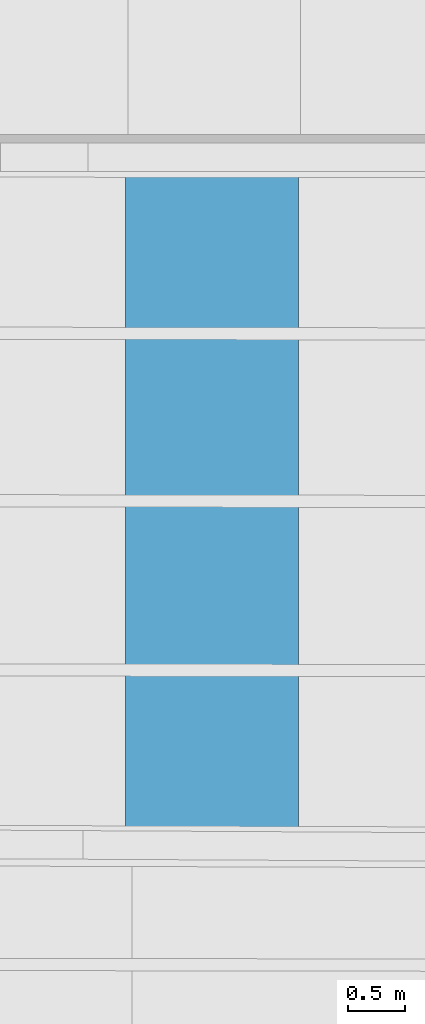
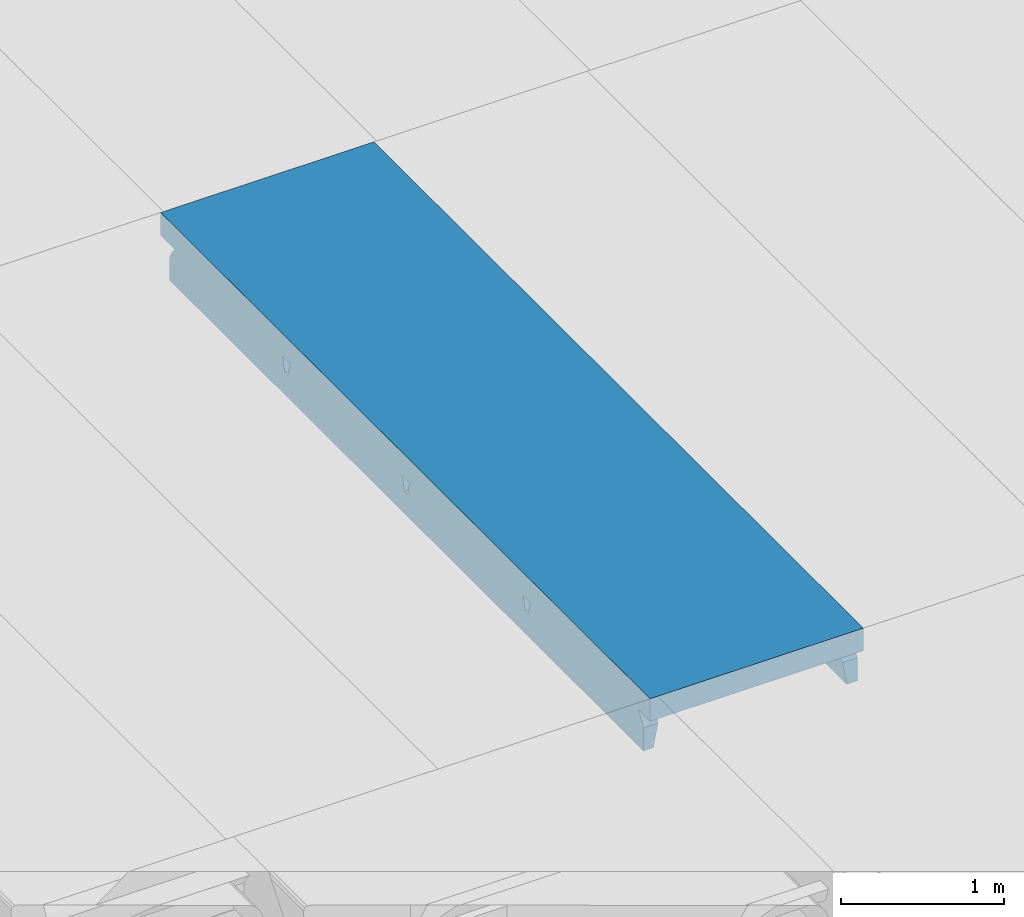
# One storey, part 40 of 301: 1 beam.
"""IFC2X3 building model written with IfcOpenShell, lengths in millimetres."""

import ifcopenshell
import ifcopenshell.guid

model = None  # the IFC model being written
_history = None  # IfcOwnerHistory: only IFC2X3 demands one
_inside = {}  # id of a spatial element -> (the spatial element, [elements in it])
_under = {}  # id of a project, library or spatial element -> (it, [spatial elements below it])
_declared = {}  # id of a project -> (the project, [libraries it declares])
_typed = {}  # id of a type object -> (the type object, [elements of that type])
_made_of = {}  # id of a material, layer set ... -> (it, [elements and type objects made of it])


def new_model(schema):
    """Start an empty IFC model of exactly this schema.

    Asked for "IFC4X3", IfcOpenShell would pick the latest addendum, in which some entities
    have other attributes; the version numbers below select the first issue.
    IFC2X3 requires an IfcOwnerHistory on every rooted entity: one is made here for all.
    """
    global model, _history
    if schema == "IFC4X3":
        model = ifcopenshell.file(schema_version=(4, 3, 0, 0))
    else:
        model = ifcopenshell.file(schema=schema)
    _inside.clear()
    _under.clear()
    _declared.clear()
    _typed.clear()
    _made_of.clear()
    _history = None
    if model.schema == "IFC2X3":
        org = make("IfcOrganization", Name="unknown")
        user = make(
            "IfcPersonAndOrganization",
            ThePerson=make("IfcPerson", FamilyName="unknown"),
            TheOrganization=org,
        )
        app = make(
            "IfcApplication",
            ApplicationDeveloper=org,
            Version="unknown",
            ApplicationFullName="unknown",
            ApplicationIdentifier="unknown",
        )
        _history = make(
            "IfcOwnerHistory",
            OwningUser=user,
            OwningApplication=app,
            ChangeAction="ADDED",
            CreationDate=0,
        )
    return model


def make(cls, **values):
    """One entity of the class cls with the attributes given. An attribute that is None is left unset."""
    return model.create_entity(
        cls, **{name: value for name, value in values.items() if value is not None}
    )


def entity(cls, *values):
    """Any entity or typed value of the class cls, its attributes in the order of the schema. None: left unset."""
    e = model.create_entity(cls)
    for i, value in enumerate(values):
        if value is not None:
            e[i] = value
    return e


def rooted(cls, **values):
    """An entity with a GlobalId (a new one), such as an element, a storey or a relation."""
    return make(cls, GlobalId=ifcopenshell.guid.new(), OwnerHistory=_history, **values)


def si_unit(unit_type, name, prefix=None):
    """IfcSIUnit, for example si_unit("LENGTHUNIT", "METRE", prefix="MILLI")."""
    return make("IfcSIUnit", UnitType=unit_type, Prefix=prefix, Name=name)


def converted_unit(unit_type, name, factor, base, dimensions=None, offset=None):
    """IfcConversionBasedUnit, such as the inch: factor (a typed value) times the base unit."""
    return make(
        "IfcConversionBasedUnit"
        if offset is None
        else "IfcConversionBasedUnitWithOffset",
        ConversionOffset=offset,
        Dimensions=None
        if dimensions is None
        else entity("IfcDimensionalExponents", *dimensions),
        UnitType=unit_type,
        Name=name,
        ConversionFactor=make(
            "IfcMeasureWithUnit", ValueComponent=factor, UnitComponent=base
        ),
    )


def derived_unit(unit_type, elements):
    """IfcDerivedUnit: a product of units, each with its exponent."""
    return make(
        "IfcDerivedUnit",
        Elements=[
            make("IfcDerivedUnitElement", Unit=unit, Exponent=power)
            for unit, power in elements
        ],
        UnitType=unit_type,
    )


def money_unit(currency):
    """IfcMonetaryUnit."""
    return make("IfcMonetaryUnit", Currency=currency)


def assignment(units):
    """IfcUnitAssignment: the units of a project."""
    return None if units is None else make("IfcUnitAssignment", Units=units)


def point(xyz):
    """IfcCartesianPoint."""
    return None if xyz is None else make("IfcCartesianPoint", Coordinates=xyz)


def direction(xyz):
    """IfcDirection."""
    return None if xyz is None else make("IfcDirection", DirectionRatios=xyz)


def frame(location, z_axis=None, x_axis=None):
    """IfcAxis2Placement3D, a coordinate frame: its origin and axes. An axis left out is left unset."""
    return make(
        "IfcAxis2Placement3D",
        Location=point(location),
        Axis=direction(z_axis),
        RefDirection=direction(x_axis),
    )


def origin_with_axes():
    """The frame at (0, 0, 0) with the z axis (0, 0, 1) and the x axis (1, 0, 0) written out."""
    return frame((0.0, 0.0, 0.0), z_axis=(0.0, 0.0, 1.0), x_axis=(1.0, 0.0, 0.0))


def place(relative_to, where):
    """IfcLocalPlacement: puts the frame where relative to a parent placement (None: the world)."""
    return make(
        "IfcLocalPlacement", PlacementRelTo=relative_to, RelativePlacement=where
    )


def context(
    kind, dimensions, precision=None, world=None, true_north=None, identifier=None
):
    """IfcGeometricRepresentationContext, for example the 3D "Model" context."""
    return make(
        "IfcGeometricRepresentationContext",
        ContextIdentifier=identifier,
        ContextType=kind,
        CoordinateSpaceDimension=dimensions,
        Precision=precision,
        WorldCoordinateSystem=world,
        TrueNorth=true_north,
    )


def subcontext(parent, identifier, kind, view, scale=None):
    """IfcGeometricRepresentationSubContext, for example "Body" below "Model"."""
    return make(
        "IfcGeometricRepresentationSubContext",
        ContextIdentifier=identifier,
        ContextType=kind,
        ParentContext=parent,
        TargetScale=scale,
        TargetView=view,
    )


def project(units=None, contexts=None):
    """IfcProject with its units and contexts."""
    return rooted(
        "IfcProject",
        Name="project",
        RepresentationContexts=contexts,
        UnitsInContext=assignment(units),
    )


def spatial(cls, under=None, at=None, **own):
    """A site, building, storey or space (cls), placed at a placement, below another one or the project."""
    s = rooted(cls, ObjectPlacement=at, **own)
    if under is not None:
        _under.setdefault(under.id(), (under, []))[1].append(s)
    return s


def faces_of(points, faces, orient=None, outer=None):
    """IfcFace entities. A face is a list of loops; a loop is a list of indices into points, from 0.

    orient and outer hold one flag for each loop. By default every Orientation is true, the
    first loop of a face is its IfcFaceOuterBound and the others are IfcFaceBound.
    """
    made = []
    for i, loops in enumerate(faces):
        bounds = []
        for j, loop in enumerate(loops):
            is_outer = j == 0 if outer is None else outer[i][j]
            bounds.append(
                make(
                    "IfcFaceOuterBound" if is_outer else "IfcFaceBound",
                    Bound=make("IfcPolyLoop", Polygon=[points[k] for k in loop]),
                    Orientation=True if orient is None else orient[i][j],
                )
            )
        made.append(make("IfcFace", Bounds=bounds))
    return made


def faceted_brep(points, faces, orient=None, outer=None, voids=None):
    """IfcFacetedBrep: a solid bounded by flat faces; with voids (closed shells), ...WithVoids."""
    shared = [point(p) for p in points]
    hull = make("IfcClosedShell", CfsFaces=faces_of(shared, faces, orient, outer))
    if voids is None:
        return make("IfcFacetedBrep", Outer=hull)
    return make(
        "IfcFacetedBrepWithVoids",
        Outer=hull,
        Voids=[
            make(cls, CfsFaces=faces_of(shared, fs, o, b)) for cls, fs, o, b in voids
        ],
    )


def shape(context_of_items, identifier, shape_type, items):
    """IfcShapeRepresentation: the items that make up one representation, for example the "Body"."""
    return make(
        "IfcShapeRepresentation",
        ContextOfItems=context_of_items,
        RepresentationIdentifier=identifier,
        RepresentationType=shape_type,
        Items=items,
    )


def material(Name=None, Category=None):
    """IfcMaterial."""
    return make("IfcMaterial", Name=Name, Category=Category)


def made_of(thing, what):
    """Note that an element or type object is made of a material, layer set ...; save() writes the relation."""
    if what is not None:
        _made_of.setdefault(what.id(), (what, []))[1].append(thing)
    return thing


def type_object(cls, material=None, **own):
    """A type object (cls), such as IfcWallType, which elements share."""
    return made_of(rooted(cls, **own), material)


def element(
    cls,
    number,
    at=None,
    inside=None,
    cuts=None,
    type_object=None,
    material=None,
    context=None,
    identifier="Body",
    shape_type=None,
    held_by="IfcProductDefinitionShape",
    body=None,
    shapes=None,
    **own,
):
    """One element of the class cls, such as IfcWall. Its Tag is "e" and its number.

    at: its placement. inside: the storey or other place that contains it. cuts: it is an
    opening in that element (IfcRelVoidsElement). A single representation is given by context,
    identifier, shape_type and body (its items); several are given by shapes. held_by: the class
    of the entity that holds the representations. save() writes the other relations.
    """
    e = rooted(cls, Tag="e%d" % number, ObjectPlacement=at, **own)
    if body is not None:
        shapes = [shape(context, identifier, shape_type, body)]
    if shapes is not None:
        e.Representation = make(held_by, Representations=shapes)
    if inside is not None:
        _inside.setdefault(inside.id(), (inside, []))[1].append(e)
    if cuts is not None:
        rooted(
            "IfcRelVoidsElement", RelatingBuildingElement=cuts, RelatedOpeningElement=e
        )
    if type_object is not None:
        _typed.setdefault(type_object.id(), (type_object, []))[1].append(e)
    return made_of(e, material)


def aggregate(whole, parts):
    """IfcRelAggregates: a whole, such as a stair, and the parts it consists of."""
    return rooted("IfcRelAggregates", RelatingObject=whole, RelatedObjects=parts)


def save(model, path):
    """Write the relations noted so far, then the file.

    IfcRelAggregates (storeys below a building ...), IfcRelContainedInSpatialStructure (elements
    in a storey), IfcRelDefinesByType, IfcRelAssociatesMaterial and IfcRelDeclares: one each for
    every whole, place, type object, material and project.
    """
    for whole, parts in _under.values():
        aggregate(whole, parts)
    for where, things in _inside.values():
        rooted(
            "IfcRelContainedInSpatialStructure",
            RelatedElements=things,
            RelatingStructure=where,
        )
    for kind, things in _typed.values():
        rooted("IfcRelDefinesByType", RelatedObjects=things, RelatingType=kind)
    for what, things in _made_of.values():
        rooted("IfcRelAssociatesMaterial", RelatedObjects=things, RelatingMaterial=what)
    for by, libraries in _declared.values():
        rooted("IfcRelDeclares", RelatingContext=by, RelatedDefinitions=libraries)
    model.write(path)


model = new_model("IFC2X3")

# Units and contexts
model_context = context("Model", 3, precision=0.01, world=origin_with_axes(), true_north=direction((0.0, 1.0)))
body_context = subcontext(model_context, "Body", "Model", "MODEL_VIEW")
ifc_project = project(units=[si_unit("LENGTHUNIT", "METRE", prefix="MILLI"), si_unit("AREAUNIT", "SQUARE_METRE"), si_unit("VOLUMEUNIT", "CUBIC_METRE"), converted_unit("PLANEANGLEUNIT", "DEGREE", entity("IfcPlaneAngleMeasure", 0.0174532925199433), si_unit("PLANEANGLEUNIT", "RADIAN"), dimensions=[0, 0, 0, 0, 0, 0, 0]), money_unit("EUR"), converted_unit("TIMEUNIT", "Year", entity("IfcTimeMeasure", 31557600.0), si_unit("TIMEUNIT", "SECOND"), dimensions=[0, 0, 1, 0, 0, 0, 0]), si_unit("MASSUNIT", "GRAM", prefix="KILO"), si_unit("THERMODYNAMICTEMPERATUREUNIT", "DEGREE_CELSIUS"), si_unit("LUMINOUSINTENSITYUNIT", "LUMEN"), si_unit("ENERGYUNIT", "JOULE", prefix="MEGA"), derived_unit("THERMALCONDUCTANCEUNIT", [(si_unit("POWERUNIT", "WATT"), 1), (si_unit("LENGTHUNIT", "METRE"), -1), (si_unit("THERMODYNAMICTEMPERATUREUNIT", "KELVIN"), -1)]), derived_unit("SPECIFICHEATCAPACITYUNIT", [(si_unit("ENERGYUNIT", "JOULE"), 1), (si_unit("MASSUNIT", "GRAM", prefix="KILO"), -1), (si_unit("THERMODYNAMICTEMPERATUREUNIT", "KELVIN"), -1)]), derived_unit("MASSDENSITYUNIT", [(si_unit("MASSUNIT", "GRAM", prefix="KILO"), 1), (si_unit("VOLUMEUNIT", "CUBIC_METRE"), -1)])], contexts=[model_context])

# Site, building, storey
site_placement = place(None, frame((0.0, 0.0, 8650.0), z_axis=(0.0, 0.0, 1.0), x_axis=(1.0, 0.0, 0.0)))
site = spatial("IfcSite", under=ifc_project, at=site_placement, Name="43301:001:0844", CompositionType="ELEMENT")
building_placement = place(site_placement, origin_with_axes())
building = spatial("IfcBuilding", under=site, at=building_placement, Name="Kuressaare Ametikooli tuulikute mehaanikute õppekorpus", CompositionType="ELEMENT")
storey_placement = place(building_placement, origin_with_axes())
storey = spatial("IfcBuildingStorey", under=building, at=storey_placement, Name="1.korrus", CompositionType="ELEMENT", Elevation=0.0)

# Beam
ifc_material = material(Name="GENEERILINE - KONSTRUKTRIOON")
beam_type = type_object("IfcBeamType", Name="Precast Double Tee 2 1510 x 440", PredefinedType="NOTDEFINED")
beam_placement = place(storey_placement, frame((97960.87775377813, 50085.23332892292, 7100.000000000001), z_axis=(0.0, 0.0, 1.0), x_axis=(-1.0, 0.0, 0.0)))
element("IfcBeam", 1, at=beam_placement, inside=storey, type_object=beam_type, material=ifc_material, context=body_context, shape_type="Brep", body=[
    faceted_brep([(594.2116174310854, 0.0, -169.8234995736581), (734.9999999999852, 0.0, -169.8234995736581), (734.9999999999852, 0.0, 0.0), (-754.9999999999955, 0.0, 0.0), (-754.9999999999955, 0.0, -169.8234995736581), (-588.1481649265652, 0.0, -169.8234995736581), (590.5789219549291, 0.0, -169.8234995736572), (593.6993855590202, 0.0, -169.7351493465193), (754.9999999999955, 0.03558289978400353, -169.8234995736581), (734.9999999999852, 0.03558289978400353, -169.8234995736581), (594.2116174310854, 176.0612028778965, -169.8234995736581), (754.9999999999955, 176.0163122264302, -169.8234995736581), (734.9999999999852, 0.03558289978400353, 0.0), (754.9999999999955, 0.03558289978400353, 0.0), (754.9999999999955, 6000.081043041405, 0.0), (-754.9999999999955, 6000.081043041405, 0.0), (-754.9999999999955, 176.4378904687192, -169.8234995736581), (-754.9999999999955, 6000.081043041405, -169.0000000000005), (-754.9999999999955, 5856.512984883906, -169.0000000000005), (-754.9999999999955, 5867.475595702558, -180.5328579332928), (-754.9999999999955, 5899.148254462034, -221.5483087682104), (-754.9999999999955, 5924.740391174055, -266.6089685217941), (-754.9999999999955, 5924.740916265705, -440.0001340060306), (-754.9999999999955, 108.2103509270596, -440.0001340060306), (-754.9999999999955, 108.2108735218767, -267.4324680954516), (-754.9999999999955, 133.8028641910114, -222.3718083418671), (-754.9999999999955, 165.4753422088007, -181.3563575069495), (-754.9999999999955, 1491.694475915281, -169.8234995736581), (-754.9999999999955, 1499.893266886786, -175.3977593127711), (-754.9999999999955, 1504.46790679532, -184.1935020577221), (-754.9999999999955, 1525.208854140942, -271.7709778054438), (-754.9999999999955, 1565.208907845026, -271.7709778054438), (-754.9999999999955, 1585.948893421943, -184.1936973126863), (-754.9999999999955, 1590.523512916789, -175.39783429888), (-754.9999999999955, 1598.722370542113, -169.8234995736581), (-754.9999999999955, 2965.73396731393, -175.3977593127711), (-754.9999999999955, 2970.308607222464, -184.1935020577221), (-754.9999999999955, 2991.049554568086, -271.7709778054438), (-754.9999999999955, 3031.04960827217, -271.7709778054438), (-754.9999999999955, 3051.789593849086, -184.1936973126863), (-754.9999999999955, 3056.364213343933, -175.39783429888), (-754.9999999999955, 3064.563070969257, -169.8234995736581), (-754.9999999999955, 2957.535176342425, -169.8234995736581), (-754.9999999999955, 4450.400906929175, -184.1935020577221), (-754.9999999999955, 4471.141854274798, -271.7709778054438), (-754.9999999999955, 4511.141907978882, -271.7709778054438), (-754.9999999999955, 4531.881893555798, -184.1936973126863), (-754.9999999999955, 4536.456513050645, -175.39783429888), (-754.9999999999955, 4544.655370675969, -169.8234995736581), (-754.9999999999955, 4437.627476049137, -169.8234995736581), (-754.9999999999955, 4445.826267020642, -175.3977593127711), (-588.1481649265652, 176.3913069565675, -169.8234995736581), (-588.1481649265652, 1491.421062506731, -169.8234995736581), (-588.1481649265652, 1598.448957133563, -169.8234995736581), (-588.1481649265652, 2957.261762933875, -169.8234995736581), (-588.1481649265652, 3064.289657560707, -169.8234995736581), (-588.1481649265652, 4437.354062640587, -169.8234995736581), (-588.1481649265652, 4544.381957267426, -169.8234995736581), (-588.1481649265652, 5856.730161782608, -169.8234995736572), (590.5789219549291, 5852.734441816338, -169.8234995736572), (593.6993855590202, 5852.639882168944, -169.7351493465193), (610.5576441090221, 5855.34668919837, -172.6428773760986), (610.5576441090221, 4538.270881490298, -172.6428773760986), (594.2116174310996, 4542.444471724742, -169.8234995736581), (594.2116174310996, 4435.416577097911, -169.8234995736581), (610.5576441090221, 4439.536618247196, -172.6428773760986), (610.5576441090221, 3058.178581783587, -172.6428773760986), (594.2116174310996, 3062.352172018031, -169.8234995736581), (594.2116174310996, 2955.324277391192, -169.8234995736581), (610.5576441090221, 2959.444318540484, -172.6428773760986), (610.5576441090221, 1592.337881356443, -172.6428773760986), (594.2116174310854, 1596.511471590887, -169.8234995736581), (594.2116174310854, 1489.483576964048, -169.8234995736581), (610.5576441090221, 1493.60361811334, -172.6428773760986), (610.5576441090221, 173.3766820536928, -172.6428773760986), (754.9999999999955, 165.0537639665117, -181.3563575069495), (625.4118792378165, 165.3064399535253, -181.1285984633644), (625.6051041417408, 165.0898898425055, -181.3563575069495), (754.9999999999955, 133.3812859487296, -222.3718083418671), (754.9999999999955, 107.7892952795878, -267.4324680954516), (754.9999999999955, 107.7887726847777, -440.0001340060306), (754.9999999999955, 5919.622227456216, -440.0001340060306), (754.9999999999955, 5919.621702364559, -266.6089685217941), (754.9999999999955, 5894.029565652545, -221.5483087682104), (754.9999999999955, 5862.356906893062, -180.5328579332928), (754.9999999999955, 5851.394296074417, -169.0000000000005), (754.9999999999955, 6000.081043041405, -169.0000000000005), (754.9999999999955, 1489.220099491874, -169.8234995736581), (754.9999999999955, 1596.247994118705, -169.8234995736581), (754.9999999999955, 1588.049136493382, -175.39783429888), (754.9999999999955, 1583.474516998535, -184.1936973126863), (754.9999999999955, 1562.734531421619, -271.7709778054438), (754.9999999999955, 1522.734477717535, -271.7709778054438), (754.9999999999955, 1501.993530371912, -184.1935020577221), (754.9999999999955, 1497.418890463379, -175.3977593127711), (754.9999999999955, 3062.08869454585, -169.8234995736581), (754.9999999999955, 3053.889836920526, -175.39783429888), (754.9999999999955, 3049.315217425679, -184.1936973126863), (754.9999999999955, 3028.575231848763, -271.7709778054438), (754.9999999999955, 2988.575178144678, -271.7709778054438), (754.9999999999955, 2967.834230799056, -184.1935020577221), (754.9999999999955, 2963.259590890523, -175.3977593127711), (754.9999999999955, 2955.060799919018, -169.8234995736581), (754.9999999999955, 4533.982136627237, -175.39783429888), (754.9999999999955, 4529.407517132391, -184.1936973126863), (754.9999999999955, 4508.667531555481, -271.7709778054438), (754.9999999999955, 4468.667477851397, -271.7709778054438), (754.9999999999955, 4447.926530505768, -184.1935020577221), (754.9999999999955, 4443.351890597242, -175.3977593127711), (754.9999999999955, 4435.153099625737, -169.8234995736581), (754.9999999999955, 4542.180994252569, -169.8234995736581), (624.369036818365, 5862.799727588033, -180.5328579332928), (-608.1505435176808, 5860.198593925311, -173.40101840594), (-620.114016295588, 5867.018351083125, -180.5328579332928), (-625.6043121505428, 5869.564380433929, -183.8058130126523), (-638.2645371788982, 5881.88068426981, -199.6996008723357), (-644.5028387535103, 5896.835265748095, -219.0380957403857), (-644.9004198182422, 5898.775032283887, -221.5483087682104), (-652.0373699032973, 5924.391362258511, -266.6089685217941), (-679.4999969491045, 5924.484981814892, -440.0001340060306), (-679.4999969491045, 108.1892720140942, -440.0001340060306), (-652.1678002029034, 108.1821637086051, -267.4324680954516), (-645.0308501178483, 133.7721618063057, -222.3718083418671), (-621.4954151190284, 165.4380689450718, -181.3563575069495), (-644.5028387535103, 136.3463354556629, -219.0380957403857), (-638.2645371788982, 151.2779430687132, -199.6996008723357), (-625.6043121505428, 163.5477258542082, -183.8058130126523), (-608.1505435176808, 172.9962839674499, -173.40101840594), (-611.5000237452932, 1499.658119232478, -175.3977593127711), (-608.1505435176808, 1496.715763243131, -173.40101840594), (-625.9131265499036, 1504.256377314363, -184.1935020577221), (-625.6043121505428, 1504.054235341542, -183.8058130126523), (-638.2645371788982, 1507.948921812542, -199.6996008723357), (-644.5028387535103, 1512.539074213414, -219.0380957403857), (-652.8549567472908, 1525.041473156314, -271.7709778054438), (-652.8549567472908, 1565.041526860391, -271.7709778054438), (-644.5028387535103, 1577.516001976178, -219.0380957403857), (-638.2645371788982, 1582.085507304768, -199.6996008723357), (-625.9132820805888, 1585.73736419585, -184.1936973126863), (-611.5001495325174, 1590.288365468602, -175.39783429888), (-625.6043121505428, 1585.93859172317, -183.8058130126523), (-608.1505435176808, 1593.219838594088, -173.40101840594), (-611.5000237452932, 2965.498819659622, -175.3977593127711), (-625.6043121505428, 2969.894935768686, -183.8058130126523), (-625.9131265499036, 2970.097077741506, -184.1935020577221), (-638.2645371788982, 2973.789622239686, -199.6996008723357), (-644.5028387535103, 2978.379774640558, -219.0380957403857), (-652.8549567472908, 2990.882173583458, -271.7709778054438), (-652.8549567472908, 3030.882227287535, -271.7709778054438), (-644.5028387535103, 3043.356702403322, -219.0380957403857), (-638.2645371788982, 3047.926207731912, -199.6996008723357), (-625.9132820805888, 3051.578064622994, -184.1936973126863), (-625.6043121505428, 3051.779292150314, -183.8058130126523), (-611.5001495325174, 3056.129065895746, -175.39783429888), (-608.1505435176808, 3059.060539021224, -173.40101840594), (-608.1505435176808, 2962.556463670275, -173.40101840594), (-625.9131265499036, 4450.189377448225, -184.1935020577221), (-638.2645371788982, 4453.881921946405, -199.6996008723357), (-644.5028387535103, 4458.47207434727, -219.0380957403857), (-652.8549567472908, 4470.97447329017, -271.7709778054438), (-652.8549567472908, 4510.974526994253, -271.7709778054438), (-644.5028387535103, 4523.449002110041, -219.0380957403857), (-638.2645371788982, 4528.018507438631, -199.6996008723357), (-625.9132820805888, 4531.670364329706, -184.1936973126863), (-625.6043121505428, 4531.871591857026, -183.8058130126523), (-611.5001495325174, 4536.221365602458, -175.39783429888), (-608.1505435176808, 4539.152838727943, -173.40101840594), (-608.1505435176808, 4442.648763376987, -173.40101840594), (-611.5000237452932, 4445.591119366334, -175.3977593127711), (-625.6043121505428, 4449.987235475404, -183.8058130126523), (625.4118792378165, 5863.256230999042, -181.1285984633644), (625.4118792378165, 4531.213987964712, -181.1285984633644), (615.3801898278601, 4534.210926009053, -175.39783429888), (615.3800585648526, 4443.580680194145, -175.3977593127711), (625.4118792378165, 3051.121688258, -181.1285984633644), (615.3801898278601, 3054.118626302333, -175.39783429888), (625.4118792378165, 4446.544834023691, -181.1285984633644), (615.3800585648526, 2963.488380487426, -175.3977593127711), (625.4118792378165, 2966.452534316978, -181.1285984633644), (625.4118792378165, 1585.280987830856, -181.1285984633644), (615.3801898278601, 1588.27792587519, -175.39783429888), (615.3800585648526, 1497.647680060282, -175.3977593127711), (625.4118792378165, 1500.611833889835, -181.1285984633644), (628.0120644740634, 1502.20162040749, -184.1935020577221), (636.4790028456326, 1504.551352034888, -194.1736948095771), (636.4790028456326, 155.1891976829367, -194.1736948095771), (642.4305280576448, 142.8024315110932, -210.2122455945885), (644.6584596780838, 133.4120923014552, -222.3718083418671), (652.9146832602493, 107.8177965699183, -267.4324680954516), (684.5333333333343, 107.8084463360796, -440.0001340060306), (684.5333333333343, 5919.861099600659, -440.0001340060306), (652.7637978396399, 5919.968268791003, -266.6089685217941), (644.5075742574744, 5894.4041195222, -221.5483087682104), (642.4305280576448, 5885.657306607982, -210.2122455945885), (636.4790028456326, 5873.29230620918, -194.1736948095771), (628.012230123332, 1583.682606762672, -184.1936973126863), (636.4790028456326, 1581.305277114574, -194.1736948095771), (642.4305280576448, 1577.497287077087, -210.2122455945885), (653.7096051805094, 1562.900511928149, -271.7709778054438), (653.7096051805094, 1522.900458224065, -271.7709778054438), (642.4305280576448, 1508.340004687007, -210.2122455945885), (628.012230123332, 3049.523307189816, -184.1936973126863), (636.4790028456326, 3047.145977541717, -194.1736948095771), (642.4305280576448, 3043.337987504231, -210.2122455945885), (653.7096051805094, 3028.741212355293, -271.7709778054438), (653.7096051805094, 2988.741158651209, -271.7709778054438), (628.0120644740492, 2968.042320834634, -184.1935020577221), (642.4305280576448, 2974.18070511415, -210.2122455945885), (636.4790028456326, 2970.392052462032, -194.1736948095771), (628.012230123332, 4529.615606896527, -184.1936973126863), (642.4305280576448, 4523.430287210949, -210.2122455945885), (653.7096051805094, 4508.833512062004, -271.7709778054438), (636.4790028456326, 4527.238277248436, -194.1736948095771), (653.7096051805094, 4468.833458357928, -271.7709778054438), (642.4305280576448, 4454.273004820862, -210.2122455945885), (636.4790028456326, 4450.484352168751, -194.1736948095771), (628.0120644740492, 4448.134620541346, -184.1935020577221)], [[[0, 1, 2, 3, 4, 5, 6, 7]], [[8, 9, 1, 0, 10, 11]], [[9, 12, 2, 1]], [[2, 12, 13, 14, 15, 3]], [[16, 4, 3, 15, 17, 18, 19, 20, 21, 22, 23, 24, 25, 26], [27, 28, 29, 30, 31, 32, 33, 34], [35, 36, 37, 38, 39, 40, 41, 42], [43, 44, 45, 46, 47, 48, 49, 50]], [[5, 4, 16, 51]], [[52, 53, 54, 55, 56, 57, 58, 59, 6, 5, 51]], [[60, 7, 6, 59]], [[0, 7, 60, 61, 62, 63, 64, 65, 66, 67, 68, 69, 70, 71, 72, 73, 74, 10]], [[8, 13, 12, 9]], [[75, 11, 10, 74, 76, 77]], [[14, 13, 8, 11, 75, 78, 79, 80, 81, 82, 83, 84, 85, 86], [87, 88, 89, 90, 91, 92, 93, 94], [95, 96, 97, 98, 99, 100, 101, 102], [103, 104, 105, 106, 107, 108, 109, 110]], [[17, 15, 14, 86]], [[18, 17, 86, 85]], [[111, 61, 60, 59, 58, 112, 113, 19, 18, 85, 84]], [[20, 19, 113, 114, 115, 116, 117]], [[20, 117, 118, 21]], [[21, 118, 119, 22]], [[119, 120, 23, 22]], [[24, 23, 120, 121]], [[25, 24, 121, 122]], [[123, 26, 25, 122, 124, 125, 126]], [[123, 127, 51, 16, 26]], [[128, 28, 27, 52, 129]], [[130, 29, 28, 128, 131]], [[30, 29, 130, 132, 133, 134]], [[134, 135, 31, 30]], [[32, 31, 135, 136, 137, 138]], [[139, 33, 32, 138, 140]], [[53, 34, 33, 139, 141]], [[53, 52, 27, 34]], [[36, 35, 142, 143, 144]], [[36, 144, 145, 146, 147, 37]], [[148, 38, 37, 147]], [[38, 148, 149, 150, 151, 39]], [[40, 39, 151, 152, 153]], [[41, 40, 153, 154, 55]], [[54, 42, 41, 55]], [[35, 42, 54, 155, 142]], [[156, 157, 158, 159, 44, 43]], [[45, 44, 159, 160]], [[160, 161, 162, 163, 46, 45]], [[46, 163, 164, 165, 47]], [[47, 165, 166, 57, 48]], [[49, 48, 57, 56]], [[49, 56, 167, 168, 50]], [[50, 168, 169, 156, 43]], [[141, 155, 54, 53]], [[167, 56, 55, 154]], [[57, 166, 112, 58]], [[51, 127, 129, 52]], [[61, 111, 170, 171, 172, 62]], [[62, 172, 103, 110, 63]], [[64, 63, 110, 109]], [[64, 109, 108, 173, 65]], [[174, 175, 66, 65, 173, 176]], [[67, 66, 175, 96, 95]], [[102, 68, 67, 95]], [[69, 68, 102, 101, 177]], [[178, 179, 180, 70, 69, 177]], [[88, 71, 70, 180, 89]], [[88, 87, 72, 71]], [[181, 73, 72, 87, 94]], [[73, 181, 182, 76, 74]], [[183, 184, 185, 77, 76, 182]], [[78, 75, 77, 185, 186, 187]], [[187, 188, 79, 78]], [[188, 189, 80, 79]], [[81, 80, 189, 190]], [[191, 82, 81, 190]], [[192, 83, 82, 191]], [[170, 111, 84, 83, 192, 193, 194]], [[89, 180, 179, 195, 90]], [[195, 196, 197, 198, 91, 90]], [[92, 91, 198, 199]], [[184, 183, 93, 92, 199, 200]], [[183, 182, 181, 94, 93]], [[175, 174, 201, 97, 96]], [[202, 203, 204, 98, 97, 201]], [[98, 204, 205, 99]], [[206, 100, 99, 205, 207, 208]], [[178, 177, 101, 100, 206]], [[171, 209, 104, 103, 172]], [[210, 211, 105, 104, 209, 212]], [[211, 213, 106, 105]], [[107, 106, 213, 214, 215, 216]], [[173, 108, 107, 216, 176]], [[114, 113, 112, 166, 165, 164]], [[162, 115, 114, 164, 163]], [[162, 161, 116, 115]], [[119, 118, 117, 116, 161, 160, 159, 158, 149, 148, 147, 146, 136, 135, 134, 133, 124, 122, 121, 120]], [[125, 124, 133, 132]], [[132, 130, 131, 126, 125]], [[128, 129, 127, 123, 126, 131]], [[136, 146, 145, 137]], [[143, 140, 138, 137, 145, 144]], [[155, 141, 139, 140, 143, 142]], [[158, 157, 150, 149]], [[152, 151, 150, 157, 156, 169]], [[154, 153, 152, 169, 168, 167]], [[171, 170, 194, 212, 209]], [[202, 201, 174, 176, 216, 215]], [[208, 196, 195, 179, 178, 206]], [[186, 185, 184, 200]], [[204, 203, 214, 213, 211, 210, 193, 192, 191, 190, 189, 188, 187, 186, 200, 199, 198, 197, 207, 205]], [[210, 212, 194, 193]], [[196, 208, 207, 197]], [[215, 214, 203, 202]]]),
])

save(model, "model.ifc")
